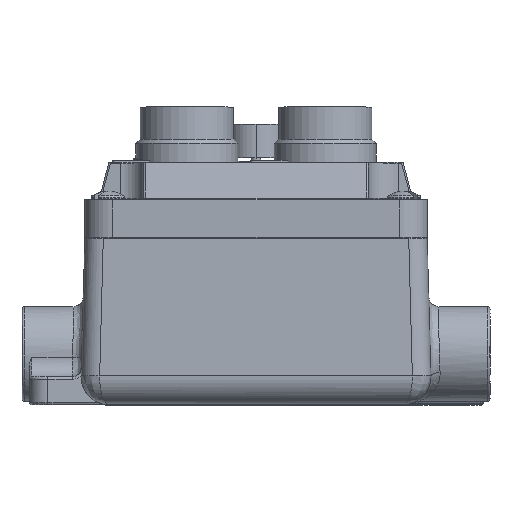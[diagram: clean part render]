
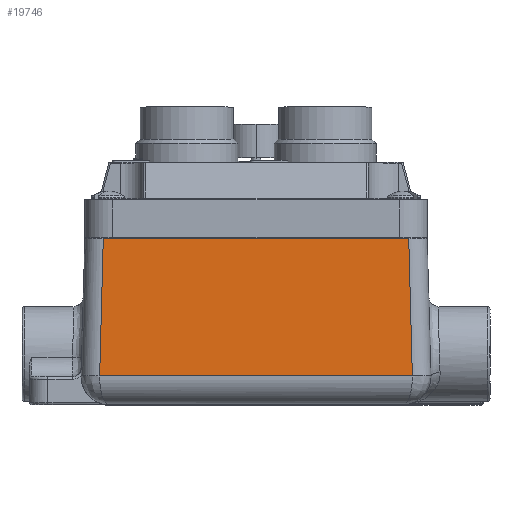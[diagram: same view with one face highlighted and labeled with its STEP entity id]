
A CAD part, top view. The second image highlights one B-rep face of the part: STEP entity #19746.
In plain terms, the highlighted planar face has unit normal (0, 0.026, 1) as drawn and (0, -1, 0.026) by its records, which use the part's own axes.
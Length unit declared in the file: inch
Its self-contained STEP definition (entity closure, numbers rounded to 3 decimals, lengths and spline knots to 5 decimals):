
#1112 = EDGE_LOOP ( 'NONE', ( #56355, #12074, #29947, #41508 ) ) ;
#3381 = VECTOR ( 'NONE', #50961, 39.37008 ) ;
#3745 = FACE_OUTER_BOUND ( 'NONE', #1112, .T. ) ;
#8951 = EDGE_CURVE ( 'NONE', #49494, #37333, #24304, .T. ) ;
#11600 = CARTESIAN_POINT ( 'NONE',  ( 1.15625, -3.30048, -1.92768 ) ) ;
#12074 = ORIENTED_EDGE ( 'NONE', *, *, #47388, .T. ) ;
#14437 = CARTESIAN_POINT ( 'NONE',  ( -2.11306, -3.30048, -1.92768 ) ) ;
#15217 = LINE ( 'NONE', #29292, #3381 ) ;
#16459 = DIRECTION ( 'NONE',  ( 0., -0.026, -1. ) ) ;
#19746 = ADVANCED_FACE ( 'NONE', ( #3745 ), #29961, .T. ) ;
#22364 = VECTOR ( 'NONE', #53398, 39.37008 ) ;
#23017 = CARTESIAN_POINT ( 'NONE',  ( -2.06422, -3.25164, -0.0625 ) ) ;
#24304 = LINE ( 'NONE', #11600, #41535 ) ;
#28982 = AXIS2_PLACEMENT_3D ( 'NONE', #38628, #47855, #16459 ) ;
#29292 = CARTESIAN_POINT ( 'NONE',  ( 2.3125, -3.25164, -0.0625 ) ) ;
#29462 = DIRECTION ( 'NONE',  ( -1., 0., 0. ) ) ;
#29947 = ORIENTED_EDGE ( 'NONE', *, *, #52121, .T. ) ;
#29961 = PLANE ( 'NONE',  #28982 ) ;
#30613 = LINE ( 'NONE', #48495, #31931 ) ;
#31726 = VERTEX_POINT ( 'NONE', #55291 ) ;
#31931 = VECTOR ( 'NONE', #47939, 39.37008 ) ;
#32733 = VERTEX_POINT ( 'NONE', #23017 ) ;
#37333 = VERTEX_POINT ( 'NONE', #14437 ) ;
#38628 = CARTESIAN_POINT ( 'NONE',  ( 2.3125, -3.25, 0. ) ) ;
#40151 = LINE ( 'NONE', #54224, #22364 ) ;
#40933 = EDGE_CURVE ( 'NONE', #32733, #37333, #30613, .T. ) ;
#41508 = ORIENTED_EDGE ( 'NONE', *, *, #40933, .T. ) ;
#41535 = VECTOR ( 'NONE', #29462, 39.37008 ) ;
#42513 = CARTESIAN_POINT ( 'NONE',  ( 2.11306, -3.30048, -1.92768 ) ) ;
#47388 = EDGE_CURVE ( 'NONE', #49494, #31726, #40151, .T. ) ;
#47855 = DIRECTION ( 'NONE',  ( 0., -1., 0.026 ) ) ;
#47939 = DIRECTION ( 'NONE',  ( -0.026, -0.026, -0.999 ) ) ;
#48495 = CARTESIAN_POINT ( 'NONE',  ( -2.06422, -3.25164, -0.0625 ) ) ;
#49494 = VERTEX_POINT ( 'NONE', #42513 ) ;
#50961 = DIRECTION ( 'NONE',  ( -1., 0., 0. ) ) ;
#52121 = EDGE_CURVE ( 'NONE', #31726, #32733, #15217, .T. ) ;
#53398 = DIRECTION ( 'NONE',  ( -0.026, 0.026, 0.999 ) ) ;
#54224 = CARTESIAN_POINT ( 'NONE',  ( 2.11306, -3.30048, -1.92768 ) ) ;
#55291 = CARTESIAN_POINT ( 'NONE',  ( 2.06422, -3.25164, -0.0625 ) ) ;
#56355 = ORIENTED_EDGE ( 'NONE', *, *, #8951, .F. ) ;
